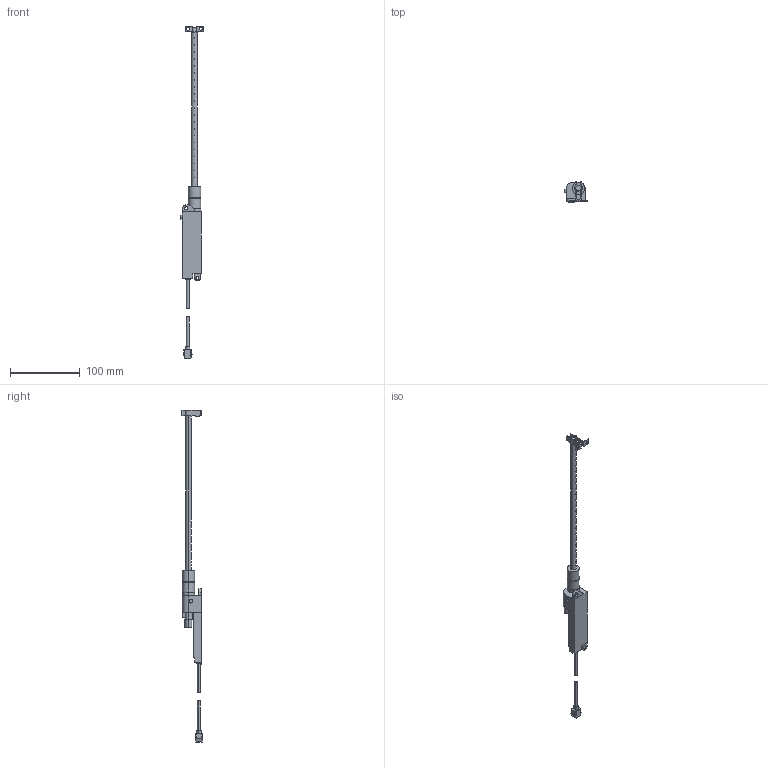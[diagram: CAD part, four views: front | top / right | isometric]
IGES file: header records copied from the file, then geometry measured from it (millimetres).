
Start section: SolidWorks IGES FILE using analytic representation for surfaces
Global section: file name: \\intra-srv04\開発データ\CAD_Data\CAD委員会\3D電子ｶﾀﾛｸﾞ\製品カタログ（新）\0_IGES\ER-VS01(+ER-VAB020).IGS; native system: SolidWorks 2004 by SolidWorks Corporation; preprocessor: Version 5.3; author: mf1158; date: 050906.114038; units: millimetre
Bounding box: 33 x 28.9 x 477.3 mm (x, y, z)
Volume: 61600.3 mm3; surface area: 27913.5 mm2
Topology: 4 solids, 4 shells, 230 faces, 597 edges, 395 vertices
Faces by surface type: plane 117, revolution 113
